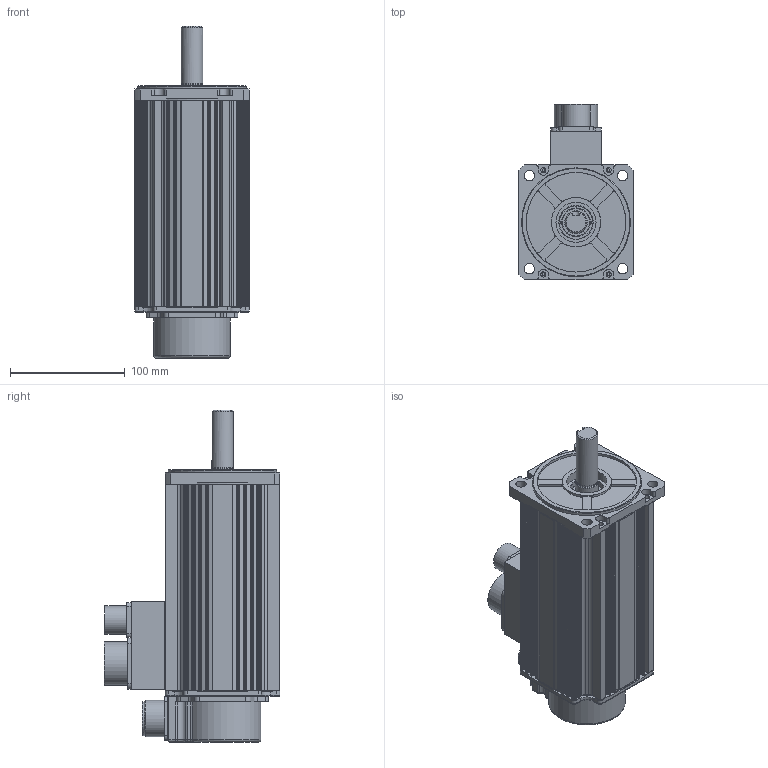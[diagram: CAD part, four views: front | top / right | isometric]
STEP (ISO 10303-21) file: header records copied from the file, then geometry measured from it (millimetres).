
FILE_DESCRIPTION (( 'STEP AP203' ), '1' );
FILE_NAME ('KANS-20DW1B2.STEP', '2023-05-16T02:06:52', ( '' ), ( '' ), 'SwSTEP 2.0', 'SolidWorks 2020', '' );
FILE_SCHEMA (( 'CONFIG_CONTROL_DESIGN' ));
Length unit declared in the file: millimetre
Products named in the file (10): SHAFT,赤19x55,Key_ル遽; 10060022(ENCODER COVER,﹤100.﹤120,MS20-29P,2of2)_ル遽; 10060021(FLANGE); CONNECTOR(14-2P); FRAME(¡à100,180mm); 3102A 20-29P; 10060019(BRACKET); CONNECTOR(24-10P)_ル遽; Connector Box(24-10P,14-2P); KANS-20DW1B2
Assembly tree (9 placements, depth 2):
  KANS-20DW1B2
    FRAME(¡à100,180mm)
    10060019(BRACKET)
    10060021(FLANGE)
    SHAFT,赤19x55,Key_ル遽
    Connector Box(24-10P,14-2P)
    CONNECTOR(14-2P)
    CONNECTOR(24-10P)_ル遽
    3102A 20-29P
    10060022(ENCODER COVER,﹤100.﹤120,MS20-29P,2of2)_ル遽
Bounding box: 100 x 153.42 x 289.9 mm (x, y, z)
Volume: 534409.1 mm3; surface area: 304907.5 mm2
Topology: 9 solids, 9 shells, 1369 faces, 3810 edges, 2524 vertices
Faces by surface type: plane 778, cylinder 513, cone 33, torus 23, bspline 20, sphere 2
Full cylindrical faces by diameter (mm): 1.5 x2, 1.8 x17, 2.05 x4, 2.5 x18, 2.6 x25, 3 x4, 3.3 x7, 3.5 x6, 3.6 x17, 3.73 x4, 3.763 x4, 4.4 x4, 4.5 x8, 7 x2, 9 x4, 14 x1, 18.6 x1, 19 x1, 19.6 x1, 20 x1, 21 x1, 22 x1, 23.1 x1, 24 x1, 25 x1, 27.2 x1, 28 x1, 29 x1, 29.6 x1, 29.7 x1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
Entity records: 44656 total; most frequent: CARTESIAN_POINT 9170, DIRECTION 7186, ORIENTED_EDGE 6974, EDGE_CURVE 3487, AXIS2_PLACEMENT_3D 2442, VERTEX_POINT 2418, LINE 2302, VECTOR 2302
